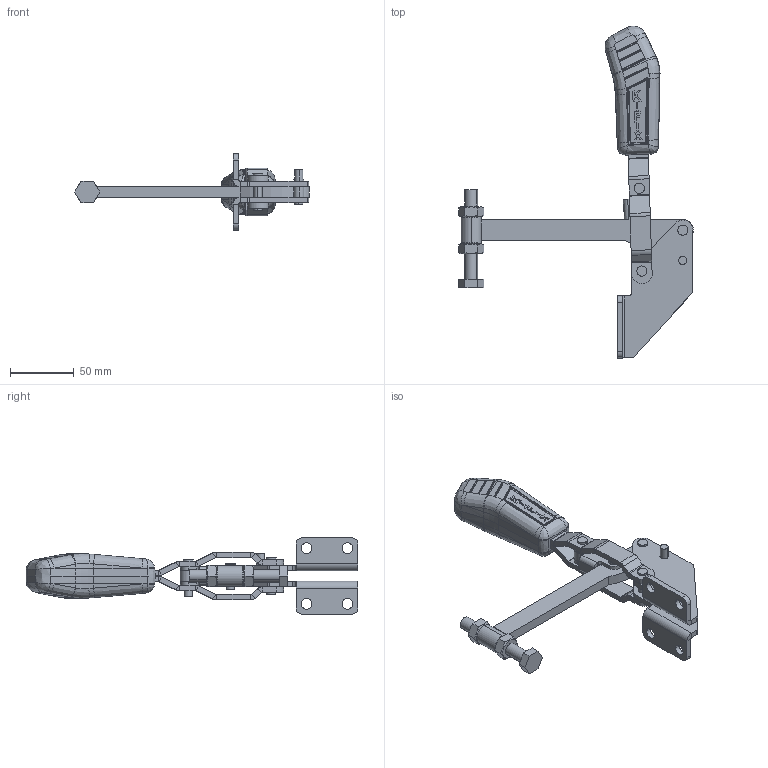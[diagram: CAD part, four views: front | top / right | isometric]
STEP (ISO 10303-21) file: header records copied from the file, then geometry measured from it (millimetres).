
FILE_DESCRIPTION (( 'STEP AP203' ), '1' );
FILE_NAME ('KF-311 DS.STEP', '2014-07-31T17:21:46', ( 'Ricardo' ), ( '' ), 'SwSTEP 2.0', 'SolidWorks 2013', '' );
FILE_SCHEMA (( 'CONFIG_CONTROL_DESIGN' ));
Length unit declared in the file: millimetre
Products named in the file (15): 05.20005; 02.12023_Direita; 03.15004; 02.12023_Esquerda; 20.20005; 01.10013; 11.50003; 04.10002; 12.50021; 07.60002; PSB-M10; 04.20002; KF-311 DS; 06.50007; 06.50008
Assembly tree (18 placements, depth 3):
  KF-311 DS
    02.12023_Direita
    02.12023_Esquerda
    01.10013  x2
    04.10002
    07.60002
    04.20002
    06.50007  x2
    06.50008  x2
    05.20005
    03.15004
    PSB-M10
      20.20005
      11.50003  x2
      12.50021
Bounding box: 183.72 x 259.79 x 60 mm (x, y, z)
Volume: 187526.7 mm3; surface area: 75890 mm2
Topology: 17 solids, 17 shells, 753 faces, 1831 edges, 1123 vertices
Faces by surface type: plane 303, cylinder 198, bspline 157, sphere 52, cone 40, torus 3
Entity records: 24950 total; most frequent: CARTESIAN_POINT 9094, ORIENTED_EDGE 3186, DIRECTION 2582, EDGE_CURVE 1593, VERTEX_POINT 993, AXIS2_PLACEMENT_3D 974, EDGE_LOOP 724, FACE_OUTER_BOUND 653
